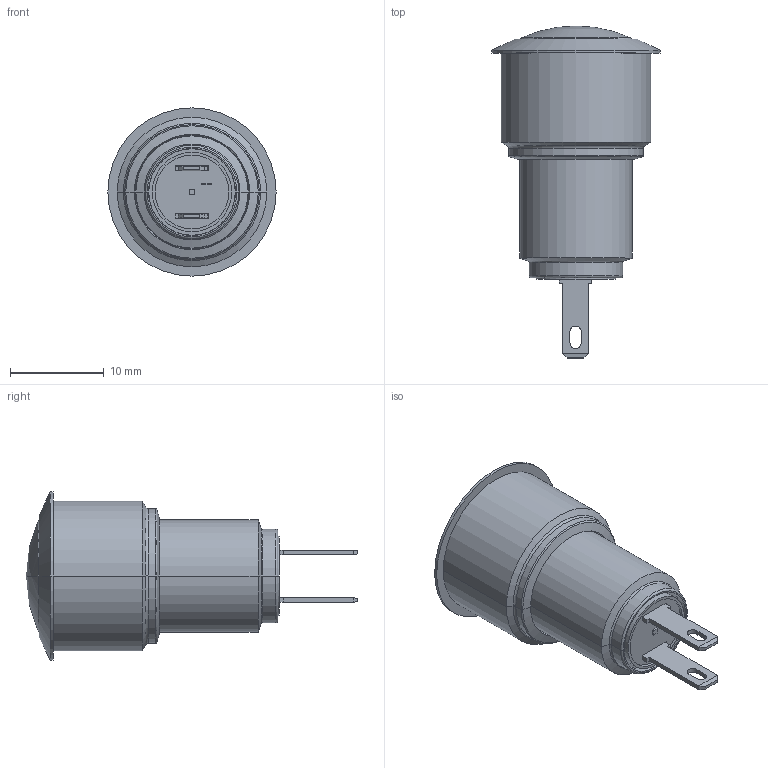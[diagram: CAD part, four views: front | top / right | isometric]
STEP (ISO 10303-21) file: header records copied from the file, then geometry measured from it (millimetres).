
FILE_DESCRIPTION((''),'2;1');
FILE_NAME('AV1611A8000_','2011-11-15T',('rboyer'),(''),'PRO/ENGINEER BY PARAMETRIC TECHNOLOGY CORPORATION, 2011250','PRO/ENGINEER BY PARAMETRIC TECHNOLOGY CORPORATION, 2011250','');
FILE_SCHEMA(('CONFIG_CONTROL_DESIGN'));
Length unit declared in the file: millimetre
Products named in the file (1): AV1611A8000_
Bounding box: 18 x 35.5 x 18 mm (x, y, z)
Volume: 2828 mm3; surface area: 4135.3 mm2
Topology: 1 solids, 1 shells, 275 faces, 760 edges, 482 vertices
Faces by surface type: plane 154, cylinder 65, cone 36, torus 18, sphere 2
Entity records: 8867 total; most frequent: CARTESIAN_POINT 1645, DIRECTION 1519, ORIENTED_EDGE 1512, EDGE_CURVE 756, AXIS2_PLACEMENT_3D 518, VECTOR 483, LINE 483, VERTEX_POINT 482
